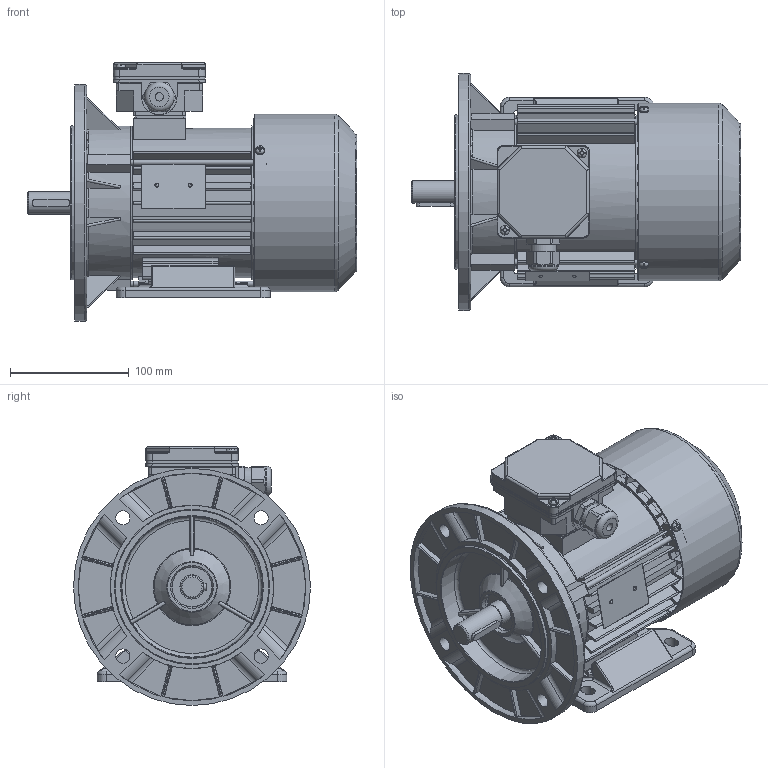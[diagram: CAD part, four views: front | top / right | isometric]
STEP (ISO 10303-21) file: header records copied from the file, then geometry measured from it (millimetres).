
FILE_DESCRIPTION(/* description */ ('Unknown'),/* implementation_level */ '2;1');
FILE_NAME(/* name */ '2SIEL80-6A',/* time_stamp */ '2021-04-12T15:02:40+02:00',/* author */ ('Unknown'),/* organization */ ('Unknown'),/* preprocessor_version */ 'ST-DEVELOPER v16.7',/* originating_system */ 'Solid Edge',/* authorisation */ 'Unknown');
FILE_SCHEMA (('AUTOMOTIVE_DESIGN {1 0 10303 214 3 1 1}'));
Products named in the file (1): 2SIEL80-6A
Bounding box: 277.78 x 200 x 218.5 mm (x, y, z)
Volume: 1101901.9 mm3; surface area: 569489.1 mm2
Topology: 3 solids, 3 shells, 2622 faces, 7381 edges, 4794 vertices
Faces by surface type: plane 1291, cylinder 880, torus 202, cone 121, bspline 108, sphere 20
Full cylindrical faces by diameter (mm): 2 x2, 2.4 x2, 3.7 x8, 4 x4, 4.5 x1, 4.6 x3, 4.8 x2, 5 x5, 5.5 x3, 6.5 x4, 7 x1, 8 x9, 12 x4, 18.998 x1, 19.298 x1, 19.498 x1, 20.298 x2, 20.398 x2, 20.4 x2, 22.3 x1, 25 x1, 25.497 x1, 25.997 x2, 26.097 x1, 26.997 x1, 28.799 x4, 34 x2, 38.198 x4, 42 x3, 47 x3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
Entity records: 105890 total; most frequent: CARTESIAN_POINT 22738, ORIENTED_EDGE 14104, DIRECTION 13341, EDGE_CURVE 7052, AXIS2_PLACEMENT_3D 4837, VERTEX_POINT 4676, LINE 3667, VECTOR 3667
